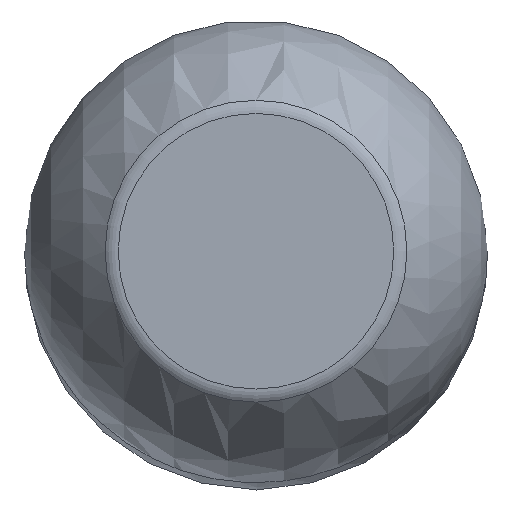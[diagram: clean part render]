
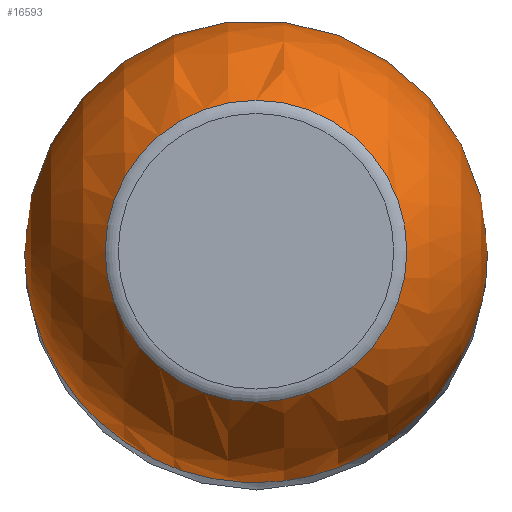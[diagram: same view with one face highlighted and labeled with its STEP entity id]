
A CAD part, top view. The second image highlights one B-rep face of the part: STEP entity #16593.
In plain terms, the highlighted spherical face has radius 18.326 mm.
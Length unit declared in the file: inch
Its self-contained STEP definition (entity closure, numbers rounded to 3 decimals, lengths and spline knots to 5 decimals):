
#41=SPHERICAL_SURFACE('',#17565,0.7215);
#3618=CIRCLE('',#17564,0.47012);
#3619=CIRCLE('',#17566,0.40377);
#3824=FACE_BOUND('',#5739,.T.);
#3825=FACE_BOUND('',#5740,.T.);
#5739=EDGE_LOOP('',(#15243));
#5740=EDGE_LOOP('',(#15244));
#8210=VERTEX_POINT('',#38188);
#8211=VERTEX_POINT('',#38191);
#10583=EDGE_CURVE('',#8210,#8210,#3618,.T.);
#10584=EDGE_CURVE('',#8211,#8211,#3619,.T.);
#15243=ORIENTED_EDGE('',*,*,#10583,.T.);
#15244=ORIENTED_EDGE('',*,*,#10584,.F.);
#16593=ADVANCED_FACE('',(#3824,#3825),#41,.T.);
#17564=AXIS2_PLACEMENT_3D('',#38189,#20434,#20435);
#17565=AXIS2_PLACEMENT_3D('',#38190,#20436,#20437);
#17566=AXIS2_PLACEMENT_3D('',#38192,#20438,#20439);
#20434=DIRECTION('center_axis',(1.,0.,0.));
#20435=DIRECTION('ref_axis',(0.,0.,-1.));
#20436=DIRECTION('center_axis',(0.,0.,1.));
#20437=DIRECTION('ref_axis',(1.,0.,0.));
#20438=DIRECTION('center_axis',(1.,0.,0.));
#20439=DIRECTION('ref_axis',(0.,0.,-1.));
#38188=CARTESIAN_POINT('',(0.01509,0.47012,0.));
#38189=CARTESIAN_POINT('Origin',(0.01509,0.,0.));
#38190=CARTESIAN_POINT('Origin',(0.5624,0.,0.));
#38191=CARTESIAN_POINT('',(1.16034,0.40377,0.));
#38192=CARTESIAN_POINT('Origin',(1.16034,0.,0.));
